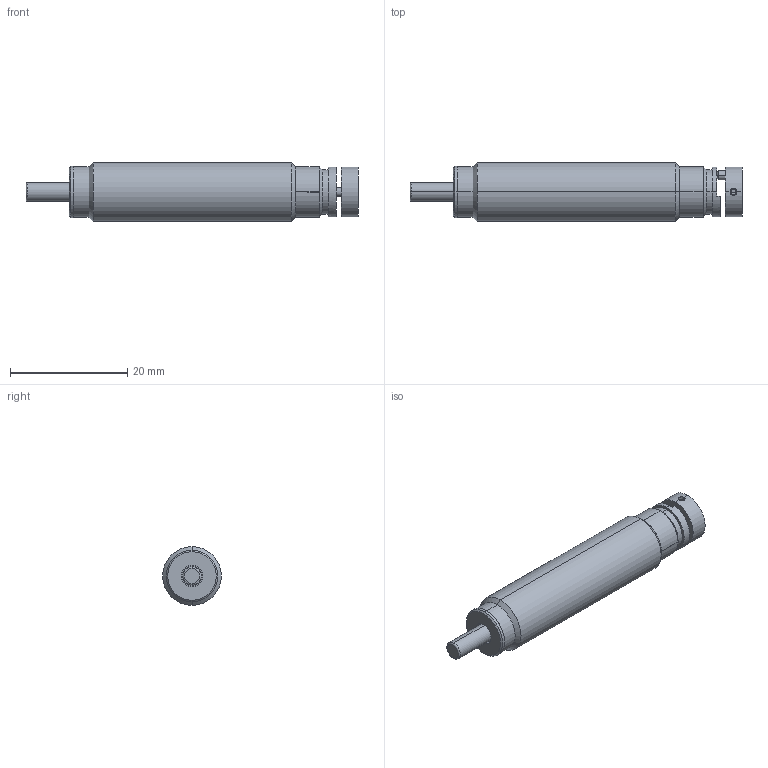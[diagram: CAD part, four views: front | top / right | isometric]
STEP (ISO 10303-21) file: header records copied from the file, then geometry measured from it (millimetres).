
FILE_DESCRIPTION (( 'STEP AP203' ), '1' );
FILE_NAME ('OEM 0.1M.STEP', '2009-04-24T20:34:41', ( ' ' ), ( '' ), 'SwSTEP 2.0', 'SolidWorks 2006233', '' );
FILE_SCHEMA (( 'CONFIG_CONTROL_DESIGN' ));
Length unit declared in the file: inch
Products named in the file (1): OEM 0.1M
Bounding box: 56.6 x 10 x 10 mm (x, y, z)
Surface area: 2345.3 mm2 (no closed solid volume)
Topology: 0 solids, 11 shells, 79 faces, 196 edges, 126 vertices
Faces by surface type: cylinder 34, plane 25, cone 12, torus 4, bspline 4
Entity records: 2763 total; most frequent: CARTESIAN_POINT 788, DIRECTION 426, ORIENTED_EDGE 348, EDGE_CURVE 196, AXIS2_PLACEMENT_3D 174, VERTEX_POINT 126, CIRCLE 98, EDGE_LOOP 90
